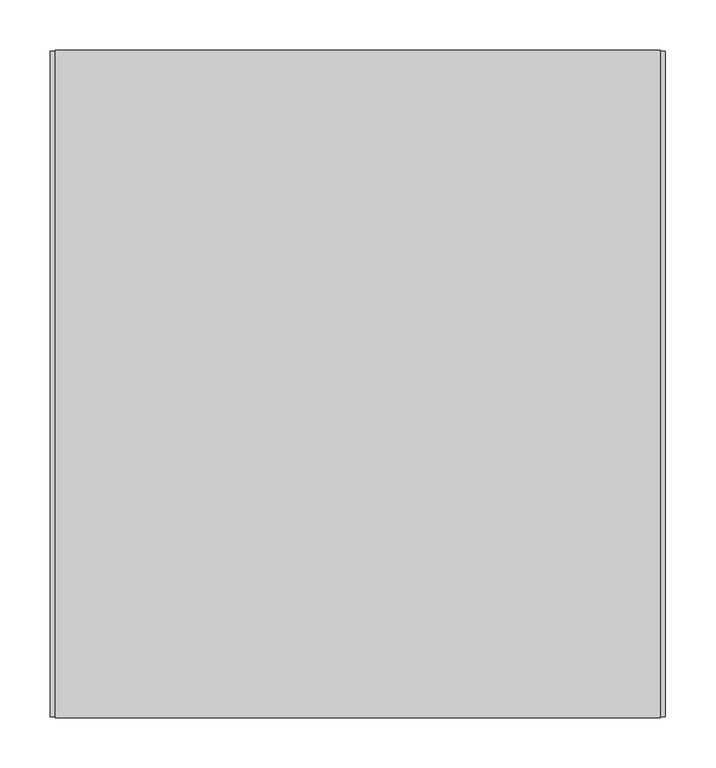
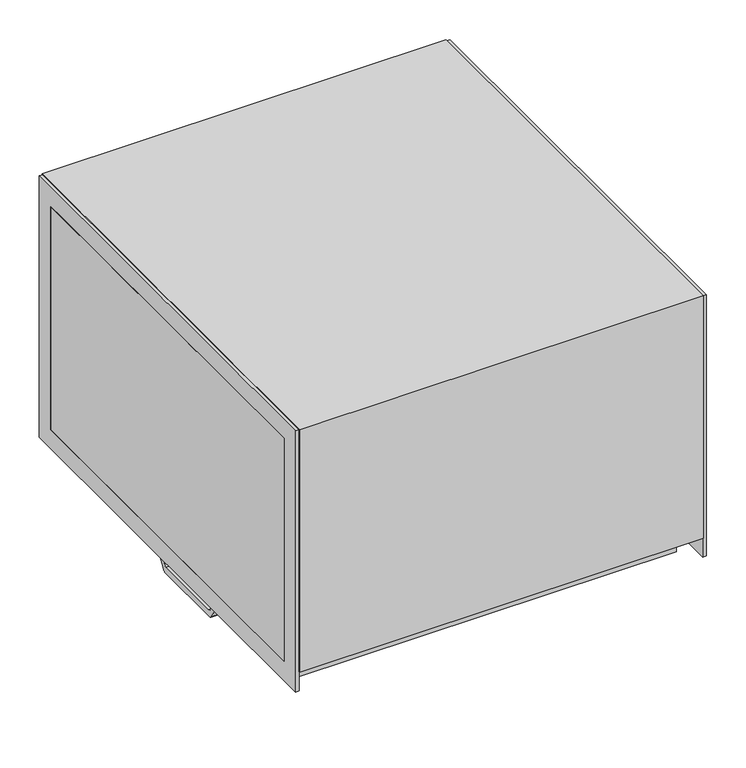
"""IFC4 building model written with IfcOpenShell, lengths in millimetres: unitary equipment geometry, VE-Wentylator-ParaForma-Harmann-DRBI_EC-Nawiewny : 060/35/2800EC."""

from ifc_helpers import new_model, si_unit, point, frame, frame_2d, origin, place, context, project, spatial, polyline, circle_curve, trimmed, segment, composite_curve, outline, extrude, faceted_brep, source, transform, mapped, element, save


def unitary_equipment_f6c58911(model_context):
    return source(origin(), model_context, "Body", "SolidModel", [
        faceted_brep([(-289.9, -295.5, -210.4), (-289.9, -295.5, -174.9), (-289.9, 295.5, -175.0), (-289.9, 295.5, -210.4), (280.6, -295.5, -210.4), (280.6, 295.5, -210.4), (280.6, 295.5, -174.9), (280.6, -295.5, -175.0), (-300.0, -331.0, -175.0), (-300.0, -331.0, 206.0), (-300.0, 331.0, 206.0), (-300.0, 331.0, -175.0), (-300.0, 300.0, -175.0), (-300.0, 300.0, 175.0), (-300.0, -300.0, 175.0), (-300.0, -300.0, -175.0), (300.0, 331.0, -175.0), (300.0, 331.0, 206.0), (300.0, -331.0, 206.0), (300.0, -331.0, -175.0), (300.0, -300.0, -175.0), (300.0, -300.0, 175.0), (300.0, 300.0, 175.0), (300.0, 300.0, -175.0), (-305.0, -300.0, -175.0), (-305.0, 300.0, -175.0), (305.0, 300.0, -175.0), (305.0, -300.0, -175.0), (-305.0, -300.0, 175.0), (-305.0, 300.0, 175.0), (305.0, 300.0, 175.0), (305.0, -300.0, 175.0)], [[[0, 1, 2, 3]], [[4, 5, 6, 7]], [[1, 0, 4, 7]], [[3, 2, 6, 5]], [[0, 3, 5, 4]], [[8, 9, 10, 11, 12, 13, 14, 15]], [[16, 17, 18, 19, 20, 21, 22, 23]], [[9, 8, 19, 18]], [[10, 9, 18, 17]], [[11, 10, 17, 16]], [[19, 8, 15, 24, 25, 12, 11, 16, 23, 26, 27, 20], [2, 1, 7, 6]], [[24, 28, 29, 25]], [[28, 24, 15, 14]], [[29, 28, 14, 13]], [[25, 29, 13, 12]], [[27, 26, 30, 31]], [[27, 31, 21, 20]], [[31, 30, 22, 21]], [[30, 26, 23, 22]]]),
        extrude(outline(polyline([(-330.0, -204.9), (-330.0, 205.1), (330.0, 205.1), (330.0, -204.9), (-330.0, -204.9)]), holes=[polyline([(-300.0, -175.0), (300.0, -175.0), (300.0, 175.0), (-300.0, 175.0), (-300.0, -175.0)])]), frame((300.0, 0.0, 0.0), z_axis=(1.0, 0.0, 0.0), x_axis=(0.0, 1.0, 0.0)), (0.0, 0.0, 1.0), 5.0),
        extrude(outline(polyline([(-330.0, -204.9), (-330.0, 205.1), (330.0, 205.1), (330.0, -204.9), (-330.0, -204.9)]), holes=[polyline([(-300.0, -175.0), (300.0, -175.0), (300.0, 175.0), (-300.0, 175.0), (-300.0, -175.0)])]), frame((-305.0, 0.0, 0.0), z_axis=(1.0, 0.0, 0.0), x_axis=(0.0, 1.0, 0.0)), (0.0, 0.0, 1.0), 5.0),
        extrude(outline(composite_curve([segment(polyline([(-85.0, -223.5), (-85.0, -210.5), (-60.0, -210.5), (-60.0, -247.5)]), True, "CONTINUOUS"), segment(trimmed(circle_curve(frame_2d((-55.0, -247.5)), 5.0), [point((-60.0, -247.5))], [point((-55.0, -252.5))], True, "CARTESIAN"), True, "CONTINUOUS"), segment(polyline([(-55.0, -252.5), (55.0, -252.5)]), True, "CONTINUOUS"), segment(trimmed(circle_curve(frame_2d((55.0, -247.5)), 5.0), [point((55.0, -252.5))], [point((60.0, -247.5))], True, "CARTESIAN"), True, "CONTINUOUS"), segment(polyline([(60.0, -247.5), (60.0, -210.5), (85.0, -210.5), (85.0, -223.5), (61.4754291, -260.1983306)]), True, "CONTINUOUS"), segment(trimmed(circle_curve(frame_2d((57.2660334, -257.5)), 5.0), [point((61.4754291, -260.1983306))], [point((57.2660334, -262.5))], False, "CARTESIAN"), True, "CONTINUOUS"), segment(polyline([(57.2660334, -262.5), (-57.2660334, -262.5)]), True, "CONTINUOUS"), segment(trimmed(circle_curve(frame_2d((-57.2660334, -257.5)), 5.0), [point((-57.2660334, -262.5))], [point((-61.4754291, -260.1983306))], False, "CARTESIAN"), True, "CONTINUOUS"), segment(polyline([(-61.4754291, -260.1983306), (-85.0, -223.5)]), True, "CONTINUOUS")], self_intersect=False)), frame((-275.3, 0.0, 0.0), z_axis=(1.0, 0.0, 0.0), x_axis=(0.0, 1.0, 0.0)), (0.0, 0.0, 1.0), 28.0),
        extrude(outline(composite_curve([segment(polyline([(270.3, -27.5), (185.3, -27.5)]), True, "CONTINUOUS"), segment(trimmed(circle_curve(frame_2d((185.3, -22.5)), 5.0), [point((185.3, -27.5))], [point((180.3, -22.5))], False, "CARTESIAN"), True, "CONTINUOUS"), segment(polyline([(180.3, -22.5), (180.3, 77.5)]), True, "CONTINUOUS"), segment(trimmed(circle_curve(frame_2d((185.3, 77.5)), 5.0), [point((180.3, 77.5))], [point((185.3, 82.5))], False, "CARTESIAN"), True, "CONTINUOUS"), segment(polyline([(185.3, 82.5), (270.3, 82.5)]), True, "CONTINUOUS"), segment(trimmed(circle_curve(frame_2d((270.3, 77.5)), 5.0), [point((270.3, 82.5))], [point((275.3, 77.5))], False, "CARTESIAN"), True, "CONTINUOUS"), segment(polyline([(275.3, 77.5), (275.3, -22.5)]), True, "CONTINUOUS"), segment(trimmed(circle_curve(frame_2d((270.3, -22.5)), 5.0), [point((275.3, -22.5))], [point((270.3, -27.5))], False, "CARTESIAN"), True, "CONTINUOUS")], self_intersect=False)), frame((0.0, 0.0, -259.9), z_axis=(0.0, 0.0, 1.0), x_axis=(1.0, 0.0, 0.0)), (0.0, 0.0, 1.0), 49.5),
    ])


if __name__ == "__main__":
    model = new_model("IFC4")
    model_context = context("Model", 3, world=origin())
    ifc_project = project(units=[si_unit("LENGTHUNIT", "METRE", prefix="MILLI")], contexts=[model_context])
    site = spatial("IfcSite", under=ifc_project)
    building = spatial("IfcBuilding", under=site)
    placement = place(None, origin())
    unitary_equipment_shape = unitary_equipment_f6c58911(model_context)
    element("IfcUnitaryEquipment", 1, ObjectType="VE-Wentylator-ParaForma-Harmann-DRBI_EC-Nawiewny : 060/35/2800EC", at=placement, inside=building, context=model_context, shape_type="MappedRepresentation", body=[
        mapped(unitary_equipment_shape, transform((0.0, 0.0, 0.0), x_axis=(1.0, 0.0, 0.0), y_axis=(0.0, 1.0, 0.0), z_axis=(0.0, 0.0, 1.0))),
    ])
    save(model, "model.ifc")
